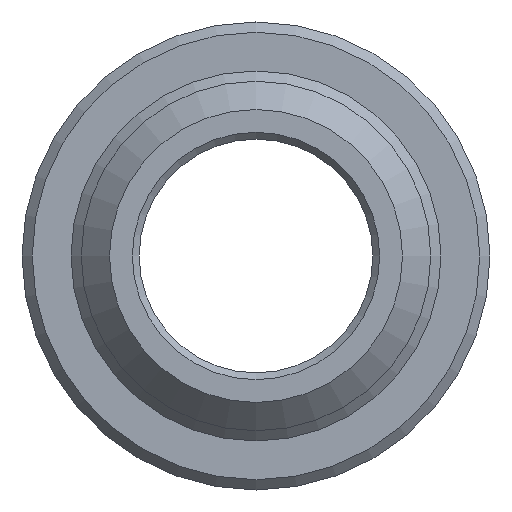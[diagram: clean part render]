
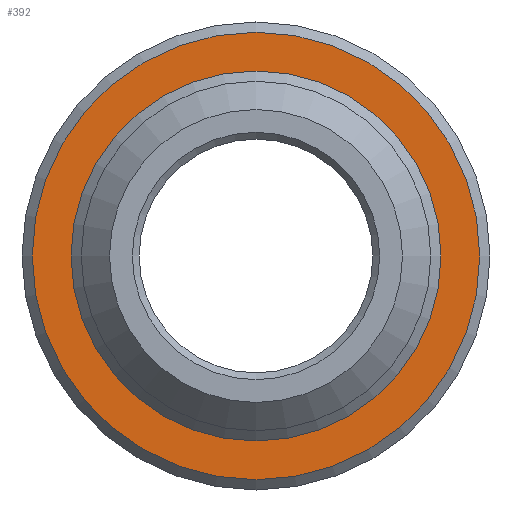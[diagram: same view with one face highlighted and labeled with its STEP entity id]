
A CAD part, front view. The second image highlights one B-rep face of the part: STEP entity #392.
In plain terms, the highlighted planar face has unit normal (0, -1, 0).
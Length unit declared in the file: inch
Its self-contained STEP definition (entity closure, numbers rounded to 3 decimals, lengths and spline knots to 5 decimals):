
#33=FACE_BOUND('',#86,.T.);
#44=PLANE('',#443);
#60=FACE_OUTER_BOUND('',#85,.T.);
#85=EDGE_LOOP('',(#316));
#86=EDGE_LOOP('',(#317));
#158=CIRCLE('',#442,0.27154);
#159=CIRCLE('',#444,0.3285);
#195=VERTEX_POINT('',#678);
#196=VERTEX_POINT('',#682);
#243=EDGE_CURVE('',#195,#195,#158,.T.);
#244=EDGE_CURVE('',#196,#196,#159,.T.);
#316=ORIENTED_EDGE('',*,*,#244,.F.);
#317=ORIENTED_EDGE('',*,*,#243,.F.);
#392=ADVANCED_FACE('',(#60,#33),#44,.T.);
#442=AXIS2_PLACEMENT_3D('',#680,#536,#537);
#443=AXIS2_PLACEMENT_3D('',#681,#538,#539);
#444=AXIS2_PLACEMENT_3D('',#683,#540,#541);
#536=DIRECTION('center_axis',(0.,-1.,0.));
#537=DIRECTION('ref_axis',(0.,0.,-1.));
#538=DIRECTION('center_axis',(0.,-1.,0.));
#539=DIRECTION('ref_axis',(0.,0.,-1.));
#540=DIRECTION('center_axis',(0.,1.,0.));
#541=DIRECTION('ref_axis',(0.,0.,1.));
#678=CARTESIAN_POINT('',(0.,6.,0.27154));
#680=CARTESIAN_POINT('Origin',(0.,6.,0.));
#681=CARTESIAN_POINT('Origin',(0.,6.,-0.27));
#682=CARTESIAN_POINT('',(0.,6.,-0.3285));
#683=CARTESIAN_POINT('Origin',(0.,6.,0.));
